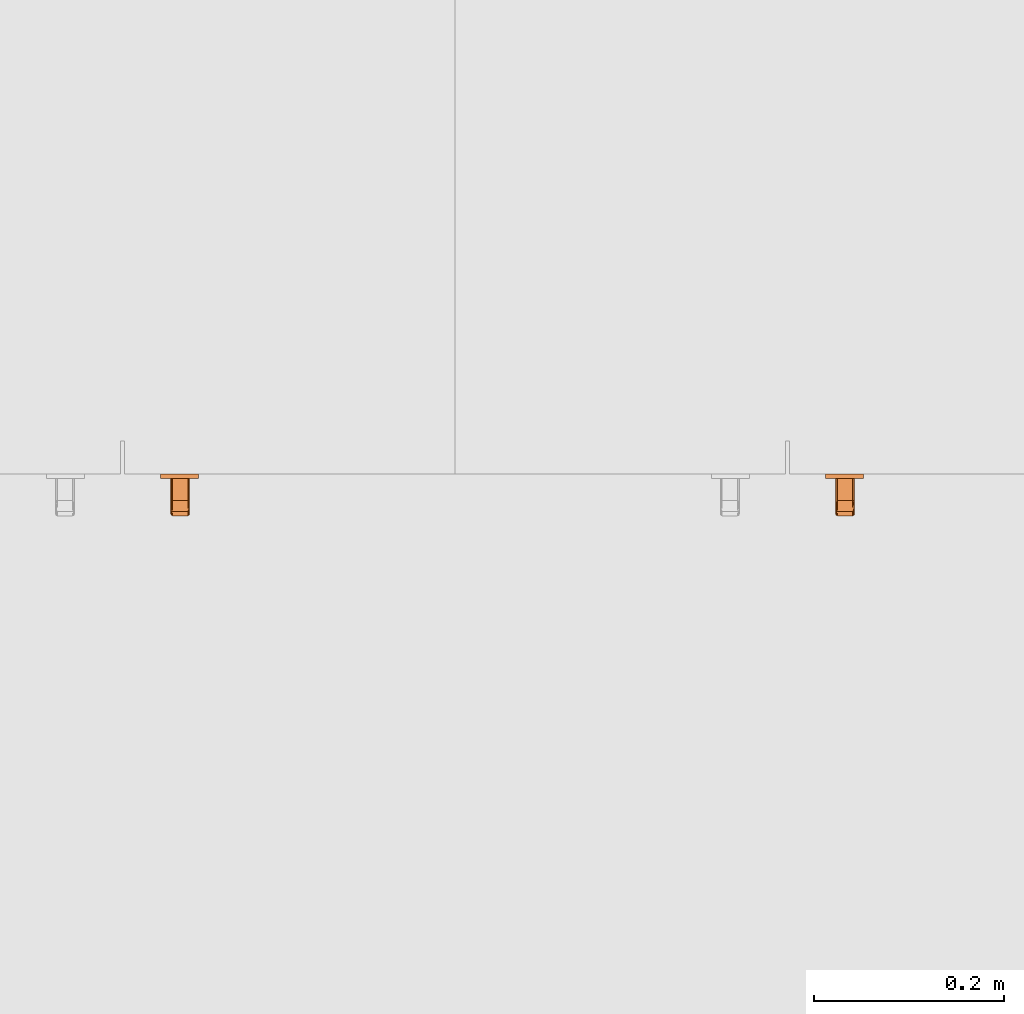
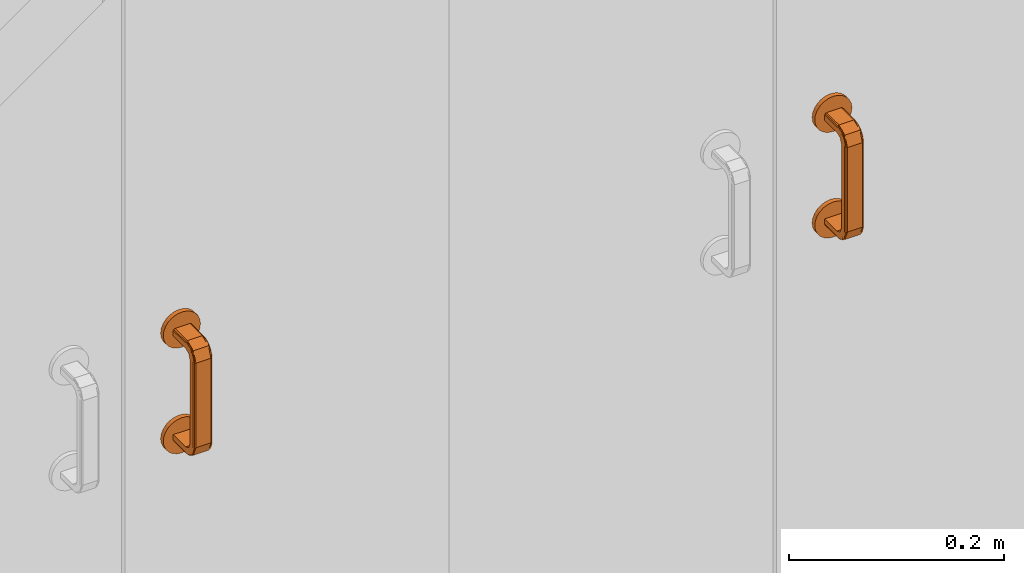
# One storey, part 56 of 67: 2 proxies.
"""IFC4 building model written with IfcOpenShell, lengths in millimetres."""

from ifc_helpers import new_model, entity, si_unit, converted_unit, direction, frame, origin, place, context, subcontext, project, spatial, polygons, source, transform, mapped, material, type_object, type_shapes, element, save


model = new_model("IFC4")

# Units and contexts
model_context = context("Model", 3, precision=0.01, world=origin(), true_north=direction((0.0, 1.0)))
body_context = subcontext(model_context, "Body", "Model", "MODEL_VIEW")
ifc_project = project(units=[si_unit("LENGTHUNIT", "METRE", prefix="MILLI"), si_unit("AREAUNIT", "SQUARE_METRE"), si_unit("VOLUMEUNIT", "CUBIC_METRE"), converted_unit("PLANEANGLEUNIT", "DEGREE", entity("IfcPlaneAngleMeasure", 0.017453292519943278), si_unit("PLANEANGLEUNIT", "RADIAN"), dimensions=[0, 0, 0, 0, 0, 0, 0])], contexts=[model_context])

# Site, building, storey, space
site_placement = place(None, origin())
site = spatial("IfcSite", under=ifc_project, at=site_placement, Name="Tomtens navn", CompositionType="ELEMENT")
building_placement = place(site_placement, origin())
building = spatial("IfcBuilding", under=site, at=building_placement, Name="Byggets navn", CompositionType="ELEMENT")
storey_placement = place(building_placement, origin())
storey = spatial("IfcBuildingStorey", under=building, at=storey_placement, Name="Level 01", CompositionType="ELEMENT", Elevation=2.1993652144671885e-25)
space_placement = place(storey_placement, origin())
space = spatial("IfcSpace", under=storey, at=space_placement, Name="102", CompositionType="ELEMENT", PredefinedType="NOTDEFINED")

# Proxies
ifc_material = material(Name="Handtag, vitt", Category="Unassigned")
building_element_proxy_type = type_object("IfcBuildingElementProxyType", Name="Handtag skåp1:Handtag skåp", PredefinedType="NOTDEFINED", material=ifc_material)
shared_shape = source(origin(), body_context, "Body", "Tessellation", [
    polygons([(8.670220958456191, -4.999999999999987, 4.021099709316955), (10.084434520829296, -4.9999999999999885, 3.435313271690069), (10.67022095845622, -4.999999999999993, 2.021099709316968), (10.67022095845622, -5.0000000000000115, -4.0210997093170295), (-9.32977904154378, -5.0000000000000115, -4.0210997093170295), (-9.32977904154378, -4.999999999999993, 2.021099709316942), (-8.743992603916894, -4.9999999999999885, 3.435313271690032), (-7.32977904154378, -4.999999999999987, 4.021099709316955), (8.670220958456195, -28.00000000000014, 4.0210997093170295), (10.084434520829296, -28.000000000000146, 3.435313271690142), (10.67022095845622, -28.00000000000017, 2.021099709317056), (8.670220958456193, -15.654960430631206, 4.02109970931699), (10.67022095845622, -17.34503987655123, 2.021099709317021), (10.08659387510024, -16.21238630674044, 3.433150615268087), (10.67022095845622, -37.914414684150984, -2.085585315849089), (10.67022095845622, -42.02109970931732, -11.999999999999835), (10.67022095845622, -42.02109970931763, -107.99999999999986), (10.67022095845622, -37.914414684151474, -117.91441468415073), (10.67022095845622, -28.00000000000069, -122.02109970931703), (10.67022095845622, -4.999999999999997, -122.02109970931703), (10.67022095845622, -4.999999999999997, -115.97890029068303), (10.67022095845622, -28.000000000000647, -115.97890029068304), (10.67022095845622, -33.641934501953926, -113.64193450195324), (10.67022095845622, -35.978900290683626, -107.99999999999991), (10.67022095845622, -35.978900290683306, -11.999999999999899), (10.67022095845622, -33.64193450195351, -6.358065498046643), (10.67022095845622, -28.000000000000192, -4.021099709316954), (-9.32977904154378, -28.000000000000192, -4.021099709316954), (-9.32977904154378, -33.64193450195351, -6.358065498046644), (-9.32977904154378, -35.97890029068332, -11.999999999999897), (-9.32977904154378, -35.97890029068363, -107.99999999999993), (-9.32977904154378, -33.641934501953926, -113.64193450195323), (-9.32977904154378, -28.000000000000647, -115.978900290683), (-9.32977904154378, -4.999999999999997, -115.978900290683), (-9.32977904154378, -4.999999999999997, -122.02109970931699), (-9.32977904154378, -28.00000000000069, -122.02109970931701), (-9.32977904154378, -37.91441468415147, -117.91441468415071), (-9.32977904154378, -42.0210997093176, -107.9999999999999), (-9.32977904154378, -42.02109970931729, -11.99999999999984), (-9.32977904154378, -37.91441468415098, -2.085585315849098), (-9.32977904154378, -28.000000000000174, 2.0210997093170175), (-8.743992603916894, -28.000000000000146, 3.435313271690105), (-7.329779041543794, -28.000000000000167, 4.0210997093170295), (-9.32977904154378, -15.654960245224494, 2.0210997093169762), (-7.3297790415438, -17.3450402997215, 4.021099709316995), (-8.741829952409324, -16.212386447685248, 3.4374726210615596), (8.670220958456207, -39.328628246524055, -0.6713717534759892), (8.670220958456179, -44.021099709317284, -11.999999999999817), (10.084434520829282, -43.43531327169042, -11.999999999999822), (10.67022095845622, -31.601265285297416, 0.5294067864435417), (8.670220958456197, -41.037713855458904, -4.797469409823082), (10.084434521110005, -40.40873190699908, -2.820007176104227), (8.670220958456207, -35.20253058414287, 1.0377138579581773), (9.809043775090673, -37.34144424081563, 0.5752165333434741), (9.818751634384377, -32.92350079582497, 2.8642465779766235), (10.67022095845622, -39.96775719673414, -7.042792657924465), (10.377327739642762, -28.000000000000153, 2.7282064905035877), (8.670220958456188, -42.529406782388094, -8.398734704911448), (9.779150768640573, -42.65191997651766, -6.400304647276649), (10.431420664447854, -34.75591670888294, 1.3575143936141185), (10.447049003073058, -37.641402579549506, -0.5884869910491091), (10.67022095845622, -34.7578399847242, -0.7780892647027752), (10.453824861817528, -31.5292743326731, 2.5026982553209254), (8.670220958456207, -31.601265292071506, 2.5294067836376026), (8.670220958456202, -40.18317105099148, -2.7344205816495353), (9.435587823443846, -40.00295364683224, -1.6197407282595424), (9.543801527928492, -41.59747716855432, -3.9137042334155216), (10.67022095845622, -38.941085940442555, -4.564188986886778), (10.502246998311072, -40.95405539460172, -4.794062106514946), (10.477567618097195, -42.45420227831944, -8.476170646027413), (9.193272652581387, -43.80444460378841, -11.999999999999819), (9.638611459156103, -43.53877057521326, -9.303396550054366), (10.67022095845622, -40.99442845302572, -9.521396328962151), (-7.329779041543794, -44.021099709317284, -11.999999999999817), (-7.329779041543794, -39.328628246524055, -0.6713717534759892), (-8.743992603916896, -43.43531327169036, -11.999999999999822), (-7.329779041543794, -35.20253057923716, 1.0377138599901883), (-8.743992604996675, -37.179992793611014, 0.40873192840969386), (-9.32977904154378, -40.52940677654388, -8.39873469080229), (-7.329779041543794, -41.03771385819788, -4.7974694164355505), (-8.468601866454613, -40.57521654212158, -2.658555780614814), (-8.478309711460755, -42.86424658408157, -7.076499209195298), (-9.32977904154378, -32.95720734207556, -0.03224280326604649), (-9.036885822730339, -42.72820649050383, -11.999999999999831), (-7.329779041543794, -31.601265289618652, 2.529406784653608), (-8.43870885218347, -33.59969531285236, 2.6519199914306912), (-9.090978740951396, -41.35751443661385, -5.244083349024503), (-9.106607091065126, -39.41151304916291, -2.3585974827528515), (-9.32977904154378, -39.221910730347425, -5.242160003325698), (-9.11338295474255, -42.50269824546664, -8.470725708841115), (-7.329779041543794, -42.52940678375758, -8.398734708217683), (-7.329779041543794, -37.26557941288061, 0.18317105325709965), (-8.095145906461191, -36.54048464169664, 1.37463273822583), (-8.182791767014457, -38.855367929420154, -0.47819170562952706), (-9.32977904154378, -35.43581101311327, -1.0589140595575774), (-7.852830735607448, -28.00000000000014, 3.8044446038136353), (-8.29816953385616, -30.69660343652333, 3.5387705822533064), (-9.060718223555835, -31.048754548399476, 2.7104148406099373), (-9.074370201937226, -34.340507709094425, 1.5930015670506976), (-9.32977904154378, -30.47860367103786, 0.9944284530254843), (-7.32977904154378, -33.664314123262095, 1.6748639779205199), (8.670220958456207, -33.664314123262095, 1.6748639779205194), (8.670220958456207, -30.748770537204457, 2.882521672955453), (-7.32977904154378, -41.67486397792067, -6.335685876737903), (8.670220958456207, -41.67486397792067, -6.335685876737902), (8.670220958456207, -40.50174611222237, -3.5035288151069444), (-7.32977904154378, -36.496471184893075, 0.5017461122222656), (8.670220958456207, -36.496471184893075, 0.5017461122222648), (-7.32977904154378, -30.83215706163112, 2.847981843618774), (8.670220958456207, -42.882521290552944, -9.251228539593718), (-7.32977904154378, -42.84798184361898, -9.167842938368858), (-7.32977904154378, -40.501746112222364, -3.5035288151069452), (8.670220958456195, -44.0210997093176, -107.99999999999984), (10.084434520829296, -43.435313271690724, -107.99999999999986), (10.67022095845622, -42.02109970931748, -61.38015936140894), (8.670220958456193, -44.021099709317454, -59.99999999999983), (8.670220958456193, -44.02109970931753, -83.30991987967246), (10.67022095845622, -42.02109970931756, -84.69007929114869), (8.670220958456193, -44.021099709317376, -36.69008012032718), (10.67022095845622, -42.02109970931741, -36.69007929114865), (10.67022095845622, -42.02109970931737, -24.34503925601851), (8.670220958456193, -44.021099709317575, -95.65495940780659), (8.670220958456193, -44.02109970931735, -24.345040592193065), (10.67022095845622, -42.021099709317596, -95.65495996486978), (10.084434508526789, -43.43531328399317, -90.1725199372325), (10.67022095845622, -42.021099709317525, -73.03511932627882), (10.043884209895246, -43.4747328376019, -67.20763959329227), (10.084434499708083, -43.435313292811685, -30.517560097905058), (10.084434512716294, -43.435313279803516, -43.7229280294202), (10.67022095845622, -42.021099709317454, -49.035119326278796), (10.049878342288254, -43.469044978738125, -55.462843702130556), (8.670220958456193, -44.02109970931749, -71.65495993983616), (10.188152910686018, -43.32336027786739, -78.66752152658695), (8.670220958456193, -44.02109970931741, -48.345040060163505), (-8.743992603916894, -43.43531327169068, -107.99999999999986), (-7.329779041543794, -44.0210997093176, -107.99999999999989), (-7.3297790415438, -44.02109970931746, -61.38015933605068), (-9.32977904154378, -42.021099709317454, -59.999999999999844), (-9.32977904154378, -42.02109970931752, -83.30992008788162), (-7.329779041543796, -44.02109970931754, -84.69007966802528), (-9.32977904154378, -42.02109970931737, -36.6900794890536), (-7.329779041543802, -44.021099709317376, -36.69007998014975), (-7.329779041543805, -44.02109970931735, -24.345039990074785), (-9.32977904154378, -42.02109970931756, -95.65495983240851), (-9.32977904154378, -42.02109970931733, -24.34503974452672), (-7.329779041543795, -44.021099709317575, -95.6549600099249), (-8.743992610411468, -43.43531326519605, -90.17252002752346), (-7.329779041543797, -44.0210997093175, -73.03511950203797), (-8.783412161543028, -43.39476296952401, -67.20763991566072), (-8.743992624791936, -43.43531325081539, -30.51756039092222), (-8.743992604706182, -43.43531327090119, -43.72292838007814), (-7.3297790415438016, -44.02109970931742, -49.03511997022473), (-8.777724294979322, -43.40075710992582, -55.462844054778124), (-9.32977904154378, -42.02109970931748, -71.65496025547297), (-8.632039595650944, -43.53903167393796, -78.66752173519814), (-9.32977904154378, -42.021099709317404, -48.34503974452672), (8.670220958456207, -39.32862824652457, -119.32862824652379), (8.670220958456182, -28.000000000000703, -124.02109970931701), (10.08443452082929, -28.0000000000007, -123.43531327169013), (10.67022095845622, -40.52940678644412, -111.60126528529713), (8.670220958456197, -35.202530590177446, -121.03771385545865), (10.084434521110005, -37.17999282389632, -120.40873190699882), (8.670220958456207, -41.03771385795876, -115.20253058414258), (9.809043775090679, -40.57521653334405, -117.34144424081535), (9.818751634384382, -42.864246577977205, -112.9235007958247), (10.67022095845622, -32.95720734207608, -119.96775719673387), (10.377327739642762, -42.728206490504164, -107.99999999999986), (8.67022095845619, -31.601265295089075, -122.52940678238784), (9.779150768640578, -33.59969535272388, -122.6519199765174), (10.431420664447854, -41.3575143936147, -114.75591670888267), (10.447049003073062, -39.41151300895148, -117.64140257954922), (10.67022095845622, -39.2219107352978, -114.75783998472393), (10.453824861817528, -42.50269825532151, -111.52927433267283), (8.670220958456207, -42.52940678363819, -111.60126529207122), (8.670220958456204, -37.26557941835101, -120.18317105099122), (9.435587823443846, -38.38025927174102, -120.00295364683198), (9.543801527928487, -36.08629576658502, -121.59747716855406), (10.67022095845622, -35.435811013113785, -118.9410859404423), (10.502246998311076, -35.205937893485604, -120.95405539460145), (10.477567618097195, -31.52382935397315, -122.45420227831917), (9.193272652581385, -28.0000000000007, -123.80444460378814), (9.638611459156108, -30.69660344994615, -123.538770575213), (10.67022095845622, -30.47860367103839, -120.99442845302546), (-7.329779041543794, -28.000000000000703, -124.02109970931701), (-7.329779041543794, -39.32862824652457, -119.32862824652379), (-8.743992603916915, -28.0000000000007, -123.43531327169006), (-7.329779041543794, -41.03771385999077, -115.20253057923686), (-8.743992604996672, -40.40873192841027, -117.17999279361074), (-9.32977904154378, -31.60126530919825, -120.52940677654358), (-7.329779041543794, -35.20253058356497, -121.03771385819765), (-8.468601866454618, -37.341444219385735, -120.57521654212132), (-8.478309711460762, -32.92350079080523, -122.8642465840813), (-9.32977904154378, -39.967757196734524, -112.9572073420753), (-9.036885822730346, -28.000000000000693, -122.72820649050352), (-7.329779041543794, -42.529406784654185, -111.60126528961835), (-8.438708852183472, -42.65191999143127, -113.59969531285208), (-9.090978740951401, -34.75591665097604, -121.35751443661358), (-9.106607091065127, -37.64140251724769, -119.41151304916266), (-9.32977904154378, -34.75783999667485, -119.22191073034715), (-9.113382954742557, -31.529274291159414, -122.50269824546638), (-7.329779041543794, -31.601265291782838, -122.52940678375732), (-7.329779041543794, -40.18317105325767, -117.26557941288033), (-8.095145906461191, -41.37463273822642, -116.54048464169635), (-8.182791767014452, -39.521808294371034, -118.8553679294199), (-9.32977904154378, -38.941085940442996, -115.435811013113), (-7.852830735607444, -43.804444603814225, -107.99999999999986), (-8.298169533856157, -43.53877058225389, -110.69660343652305), (-9.060718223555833, -42.710414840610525, -111.04875454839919), (-9.074370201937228, -41.59300156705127, -114.34050770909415), (-9.32977904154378, -40.99442845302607, -110.47860367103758), (-7.32977904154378, -41.6748639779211, -113.66431412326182), (8.670220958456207, -41.6748639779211, -113.66431412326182), (8.670220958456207, -42.88252167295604, -110.74877053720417), (-7.32977904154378, -33.66431412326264, -121.67486397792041), (8.670220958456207, -33.66431412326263, -121.67486397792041), (8.670220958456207, -36.4964711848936, -120.50174611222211), (-7.32977904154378, -40.50174611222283, -116.49647118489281), (8.670220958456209, -40.50174611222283, -116.49647118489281), (-7.32977904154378, -42.84798184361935, -110.83215706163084), (8.670220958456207, -30.748771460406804, -122.88252129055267), (-7.32977904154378, -30.832157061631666, -122.84798184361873), (-7.32977904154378, -36.49647118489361, -120.50174611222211), (8.670220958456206, -4.99999999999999, -124.02109970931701), (-7.329779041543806, -4.99999999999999, -124.021099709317), (-8.743992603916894, -4.99999999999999, -123.43531327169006), (10.084434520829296, -4.99999999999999, -123.43531327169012), (8.670220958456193, -17.345041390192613, -124.021099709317), (10.67022095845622, -15.654959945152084, -122.02109970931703), (10.086593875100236, -16.787613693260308, -123.43315061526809), (-9.32977904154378, -17.34504010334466, -122.02109970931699), (-7.3297790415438, -15.654959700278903, -124.021099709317), (-8.741829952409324, -16.787613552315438, -123.43747262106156)], [[[8, 1, 2, 3, 4, 5, 6, 7]], [[30, 25, 24, 31]], [[35, 34, 21, 20, 226, 223, 224, 225]], [[13, 10, 57, 11]], [[10, 13, 14]], [[14, 12, 9]], [[12, 2, 1]], [[14, 2, 12]], [[3, 14, 13]], [[3, 2, 14]], [[9, 10, 14]], [[4, 3, 13, 11, 50, 62, 15, 68, 56, 73, 16, 121, 120, 130, 115, 126, 118, 124, 17, 160, 172, 18, 178, 166, 183, 19, 228, 20, 21, 22, 23, 24, 25, 26, 27]], [[5, 4, 27, 28]], [[184, 231, 224, 223, 227, 158]], [[34, 35, 230, 36, 189, 199, 37, 205, 193, 210, 38, 144, 139, 154, 138, 156, 141, 145, 39, 79, 89, 40, 95, 83, 100, 41, 44, 6, 5, 28, 29, 30, 31, 32, 33]], [[45, 42, 96, 43]], [[42, 45, 46]], [[46, 44, 41]], [[44, 7, 6]], [[46, 7, 44]], [[8, 46, 45]], [[8, 7, 46]], [[41, 42, 46]], [[1, 8, 45, 43, 9, 12]], [[33, 22, 21, 34]], [[61, 62, 60]], [[69, 56, 68]], [[47, 65, 66]], [[53, 54, 55]], [[59, 51, 105, 58]], [[67, 65, 106, 51]], [[70, 56, 69]], [[63, 60, 50]], [[10, 64, 55]], [[52, 67, 59]], [[54, 53, 108, 47]], [[58, 71, 72]], [[60, 55, 54]], [[68, 61, 69]], [[67, 52, 66]], [[15, 61, 68]], [[63, 10, 55]], [[11, 57, 10, 63]], [[71, 58, 110, 48]], [[49, 16, 70]], [[61, 60, 54]], [[50, 11, 63]], [[52, 61, 54]], [[62, 61, 15]], [[62, 50, 60]], [[55, 60, 63]], [[10, 9, 103, 64]], [[55, 64, 102, 53]], [[52, 54, 66]], [[54, 47, 66]], [[65, 67, 66]], [[51, 59, 67]], [[61, 52, 69]], [[52, 59, 69]], [[70, 69, 59]], [[59, 72, 70]], [[70, 16, 73, 56]], [[72, 71, 49]], [[70, 72, 49]], [[58, 72, 59]], [[26, 29, 28, 27]], [[25, 30, 29, 26]], [[96, 85, 109, 43]], [[90, 87, 79]], [[86, 77, 101, 85]], [[98, 99, 86]], [[93, 92, 107, 77]], [[87, 82, 81]], [[81, 82, 80]], [[99, 95, 78]], [[88, 89, 87]], [[86, 99, 78]], [[78, 94, 93]], [[76, 91, 82]], [[81, 80, 112, 75]], [[92, 93, 94]], [[94, 78, 88]], [[40, 88, 95]], [[90, 76, 82]], [[39, 84, 76, 90]], [[98, 97, 42]], [[97, 98, 86]], [[88, 87, 81]], [[79, 39, 90]], [[88, 81, 94]], [[89, 88, 40]], [[89, 79, 87]], [[82, 87, 90]], [[76, 74, 111, 91]], [[82, 91, 104, 80]], [[77, 86, 93]], [[86, 78, 93]], [[81, 75, 94]], [[92, 94, 75]], [[95, 88, 78]], [[97, 96, 42]], [[85, 96, 97]], [[85, 97, 86]], [[42, 41, 98]], [[100, 83, 95, 99]], [[99, 98, 100]], [[98, 41, 100]], [[103, 9, 43, 109, 85, 101, 77, 107, 92, 75, 47, 108, 53, 102, 64]], [[105, 51, 106, 65, 47, 75, 112, 80, 104, 91, 111, 74, 48, 110, 58]], [[121, 16, 49, 128, 129, 130, 120]], [[118, 125, 114, 167, 17, 124]], [[126, 133, 118]], [[126, 115, 127]], [[123, 119, 134, 129, 128, 49, 71, 48]], [[125, 117, 122, 113, 114]], [[131, 130, 129]], [[130, 131, 115]], [[126, 127, 133]], [[127, 116, 132]], [[133, 117, 125]], [[131, 134, 116]], [[131, 116, 127]], [[115, 131, 127]], [[131, 129, 134]], [[133, 127, 132]], [[133, 132, 117]], [[118, 133, 125]], [[143, 74, 76, 150, 151, 152, 142]], [[140, 147, 135, 206, 136, 146]], [[148, 155, 140]], [[148, 137, 149]], [[145, 141, 156, 151, 150, 76, 84, 39]], [[147, 139, 144, 38, 135]], [[153, 152, 151]], [[152, 153, 137]], [[148, 149, 155]], [[149, 138, 154]], [[155, 139, 147]], [[153, 156, 138]], [[153, 138, 149]], [[137, 153, 149]], [[153, 151, 156]], [[155, 149, 154]], [[155, 154, 139]], [[140, 155, 147]], [[48, 74, 143, 142, 152, 137, 148, 140, 146, 136, 113, 122, 117, 132, 116, 134, 119, 123]], [[171, 172, 170]], [[179, 166, 178]], [[157, 176, 164]], [[163, 164, 165]], [[169, 161, 215, 168]], [[176, 157, 175]], [[180, 166, 179]], [[173, 170, 160]], [[114, 174, 165]], [[162, 177, 169]], [[164, 163, 218, 157]], [[168, 181, 182]], [[170, 165, 164]], [[178, 171, 179]], [[177, 162, 176]], [[18, 171, 178]], [[173, 114, 165]], [[17, 167, 114, 173]], [[181, 168, 220, 158]], [[159, 19, 180]], [[171, 170, 164]], [[160, 17, 173]], [[162, 171, 164]], [[172, 171, 18]], [[172, 160, 170]], [[165, 170, 173]], [[114, 113, 213, 174]], [[165, 174, 212, 163]], [[177, 175, 216, 161]], [[164, 176, 162]], [[175, 177, 176]], [[161, 169, 177]], [[171, 162, 179]], [[162, 169, 179]], [[180, 179, 169]], [[169, 182, 180]], [[180, 19, 183, 166]], [[182, 181, 159]], [[180, 182, 159]], [[168, 182, 169]], [[23, 32, 31, 24]], [[22, 33, 32, 23]], [[206, 195, 219, 136]], [[200, 197, 189]], [[196, 187, 211, 195]], [[208, 209, 196]], [[203, 202, 217, 187]], [[197, 192, 191]], [[191, 192, 190]], [[209, 205, 188]], [[198, 199, 197]], [[196, 209, 188]], [[188, 204, 203]], [[186, 201, 192]], [[191, 190, 222, 185]], [[202, 203, 204]], [[203, 196, 188]], [[37, 198, 205]], [[200, 186, 192]], [[36, 194, 186, 200]], [[208, 207, 135]], [[207, 208, 196]], [[198, 197, 191]], [[189, 36, 200]], [[198, 191, 204]], [[199, 198, 37]], [[199, 189, 197]], [[192, 197, 200]], [[186, 184, 221, 201]], [[192, 201, 214, 190]], [[196, 203, 187]], [[198, 204, 188]], [[191, 185, 204]], [[202, 204, 185]], [[205, 198, 188]], [[207, 206, 135]], [[195, 206, 207]], [[195, 207, 196]], [[135, 38, 208]], [[210, 193, 205, 209]], [[209, 208, 210]], [[208, 38, 210]], [[213, 113, 136, 219, 195, 211, 187, 217, 202, 185, 157, 218, 163, 212, 174]], [[215, 161, 216, 175, 157, 185, 222, 190, 214, 201, 221, 184, 158, 220, 168]], [[228, 226, 20]], [[226, 228, 229]], [[229, 227, 223]], [[227, 159, 181, 158]], [[229, 159, 227]], [[19, 229, 228]], [[19, 159, 229]], [[223, 226, 229]], [[231, 225, 224]], [[225, 231, 232]], [[232, 230, 35]], [[230, 186, 194, 36]], [[232, 186, 230]], [[184, 232, 231]], [[184, 186, 232]], [[35, 225, 232]]], closed=True),
    polygons([(-20.00000000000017, -4.999999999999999, 1.386238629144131e-14), (-19.318516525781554, -4.999999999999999, -5.176380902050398), (-17.320508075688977, -4.999999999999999, -9.999999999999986), (-14.14213562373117, -4.999999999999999, -14.142135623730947), (-10.000000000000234, -4.999999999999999, -17.320508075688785), (-5.176380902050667, -4.999999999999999, -19.318516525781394), (-2.580269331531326e-13, -4.999999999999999, -20.00000000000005), (5.176380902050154, -4.999999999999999, -19.31851652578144), (9.999999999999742, -4.999999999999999, -17.320508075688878), (14.142135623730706, -4.999999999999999, -14.142135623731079), (17.320508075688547, -4.999999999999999, -10.000000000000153), (19.318516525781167, -4.999999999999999, -5.176380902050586), (19.999999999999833, -4.999999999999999, -5.075939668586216e-14), (19.3185165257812, -4.999999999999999, 5.17638090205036), (17.32050807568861, -4.999999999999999, 9.999999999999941), (14.142135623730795, -4.999999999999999, 14.142135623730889), (9.99999999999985, -4.999999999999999, 17.32050807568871), (5.176380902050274, -4.999999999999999, 19.31851652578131), (-1.3958834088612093e-13, -4.999999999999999, 19.99999999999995), (-5.176380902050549, -4.999999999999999, 19.318516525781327), (-10.000000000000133, -4.999999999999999, 17.320508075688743), (-14.142135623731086, -4.999999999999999, 14.142135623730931), (-17.320508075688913, -4.999999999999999, 9.999999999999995), (-19.318516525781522, -4.999999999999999, 5.176380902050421), (-20.00000000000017, 0.0, 4.9806020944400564e-15), (-19.318516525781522, 0.0, 5.176380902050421), (-17.320508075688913, 0.0, 9.999999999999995), (-14.142135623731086, 0.0, 14.142135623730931), (-10.000000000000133, 0.0, 17.320508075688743), (-5.176380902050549, 0.0, 19.318516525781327), (-1.3958834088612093e-13, 0.0, 19.99999999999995), (5.176380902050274, 0.0, 19.31851652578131), (9.99999999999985, 0.0, 17.32050807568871), (14.142135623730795, 0.0, 14.142135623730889), (17.32050807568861, 0.0, 9.999999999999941), (19.3185165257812, 0.0, 5.17638090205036), (19.999999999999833, 0.0, -1.622393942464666e-13), (19.318516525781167, 0.0, -5.176380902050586), (17.320508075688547, 0.0, -10.000000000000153), (14.142135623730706, 0.0, -14.142135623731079), (9.999999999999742, 0.0, -17.320508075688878), (5.176380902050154, 0.0, -19.31851652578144), (-2.580269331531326e-13, 0.0, -20.00000000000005), (-5.176380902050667, 0.0, -19.318516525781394), (-10.000000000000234, 0.0, -17.320508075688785), (-14.14213562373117, 0.0, -14.142135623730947), (-17.320508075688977, 0.0, -9.999999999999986), (-19.318516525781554, 0.0, -5.176380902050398)], [[[8, 9, 10, 11, 12, 13, 14, 15, 16, 17, 18, 19, 20, 21, 22, 23, 24, 1, 2, 3, 4, 5, 6, 7]], [[31, 32, 33, 34, 35, 36, 37, 38, 39, 40, 41, 42, 43, 44, 45, 46, 47, 48, 25, 26, 27, 28, 29, 30]], [[48, 2, 1, 25]], [[47, 3, 2, 48]], [[5, 4, 46, 45]], [[47, 46, 4, 3]], [[6, 5, 45, 44]], [[7, 6, 44, 43]], [[42, 8, 7, 43]], [[41, 9, 8, 42]], [[11, 10, 40, 39]], [[41, 40, 10, 9]], [[12, 11, 39, 38]], [[13, 12, 38, 37]], [[36, 14, 13, 37]], [[35, 15, 14, 36]], [[17, 16, 34, 33]], [[35, 34, 16, 15]], [[18, 17, 33, 32]], [[19, 18, 32, 31]], [[30, 20, 19, 31]], [[29, 21, 20, 30]], [[23, 22, 28, 27]], [[29, 28, 22, 21]], [[24, 23, 27, 26]], [[1, 24, 26, 25]]], closed=True),
    polygons([(-20.000000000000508, -4.999999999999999, -120.0), (-19.31851652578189, -4.999999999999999, -125.17638090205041), (-17.32050807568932, -4.999999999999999, -130.0), (-14.142135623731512, -4.999999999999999, -134.14213562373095), (-10.000000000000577, -4.999999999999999, -137.3205080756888), (-5.176380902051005, -4.999999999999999, -139.3185165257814), (-6.006528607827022e-13, -4.999999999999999, -140.00000000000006), (5.176380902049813, -4.999999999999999, -139.31851652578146), (9.999999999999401, -4.999999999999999, -137.3205080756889), (14.142135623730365, -4.999999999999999, -134.1421356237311), (17.320508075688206, -4.999999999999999, -130.00000000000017), (19.318516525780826, -4.999999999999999, -125.1763809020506), (19.999999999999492, -4.999999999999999, -120.00000000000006), (19.31851652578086, -4.999999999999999, -114.82361909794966), (17.32050807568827, -4.999999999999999, -110.00000000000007), (14.142135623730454, -4.999999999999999, -105.85786437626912), (9.99999999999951, -4.999999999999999, -102.6794919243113), (5.176380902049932, -4.999999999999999, -100.6814834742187), (-4.779843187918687e-13, -4.999999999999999, -100.00000000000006), (-5.176380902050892, -4.999999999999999, -100.68148347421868), (-10.000000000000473, -4.999999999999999, -102.67949192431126), (-14.142135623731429, -4.999999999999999, -105.85786437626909), (-17.320508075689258, -4.999999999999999, -110.00000000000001), (-19.31851652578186, -4.999999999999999, -114.82361909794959), (-20.000000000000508, 0.0, -120.00000000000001), (-19.31851652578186, 0.0, -114.82361909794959), (-17.320508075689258, 0.0, -110.00000000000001), (-14.142135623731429, 0.0, -105.85786437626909), (-10.000000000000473, 0.0, -102.67949192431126), (-5.176380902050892, 0.0, -100.68148347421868), (-4.779843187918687e-13, 0.0, -100.00000000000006), (5.176380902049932, 0.0, -100.6814834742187), (9.99999999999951, 0.0, -102.6794919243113), (14.142135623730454, 0.0, -105.85786437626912), (17.32050807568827, 0.0, -110.00000000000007), (19.31851652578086, 0.0, -114.82361909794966), (19.999999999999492, 0.0, -120.00000000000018), (19.318516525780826, 0.0, -125.1763809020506), (17.320508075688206, 0.0, -130.00000000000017), (14.142135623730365, 0.0, -134.1421356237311), (9.999999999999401, 0.0, -137.3205080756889), (5.176380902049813, 0.0, -139.31851652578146), (-6.006528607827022e-13, 0.0, -140.00000000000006), (-5.176380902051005, 0.0, -139.3185165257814), (-10.000000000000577, 0.0, -137.3205080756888), (-14.142135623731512, 0.0, -134.14213562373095), (-17.32050807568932, 0.0, -130.0), (-19.31851652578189, 0.0, -125.17638090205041)], [[[7, 8, 9, 10, 11, 12, 13, 14, 15, 16, 17, 18, 19, 20, 21, 22, 23, 24, 1, 2, 3, 4, 5, 6]], [[31, 32, 33, 34, 35, 36, 37, 38, 39, 40, 41, 42, 43, 44, 45, 46, 47, 48, 25, 26, 27, 28, 29, 30]], [[48, 2, 1, 25]], [[47, 3, 2, 48]], [[5, 4, 46, 45]], [[47, 46, 4, 3]], [[6, 5, 45, 44]], [[7, 6, 44, 43]], [[42, 8, 7, 43]], [[41, 9, 8, 42]], [[11, 10, 40, 39]], [[41, 40, 10, 9]], [[12, 11, 39, 38]], [[13, 12, 38, 37]], [[36, 14, 13, 37]], [[35, 15, 14, 36]], [[17, 16, 34, 33]], [[35, 34, 16, 15]], [[18, 17, 33, 32]], [[19, 18, 32, 31]], [[30, 20, 19, 31]], [[29, 21, 20, 30]], [[23, 22, 28, 27]], [[29, 28, 22, 21]], [[24, 23, 27, 26]], [[1, 24, 26, 25]]], closed=True),
])
type_shapes(building_element_proxy_type, [shared_shape])
for number, where, name in (
    (1, (64082.85352810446, 22311.46645692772, 1120.0), "Handtag skåp1:Handtag skåp"),
    (2, (64782.85352810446, 22311.466456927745, 1120.0), "Handtag skåp1:Handtag skåp"),
):
    element("IfcBuildingElementProxy", number, at=place(space_placement, frame(where)), inside=space, type_object=building_element_proxy_type, material=ifc_material, Name=name, PredefinedType="NOTDEFINED", context=body_context, shape_type="MappedRepresentation", body=[
        mapped(shared_shape, transform((0.0, 0.0, 0.0), scale=1.0)),
    ])

save(model, "model.ifc")
